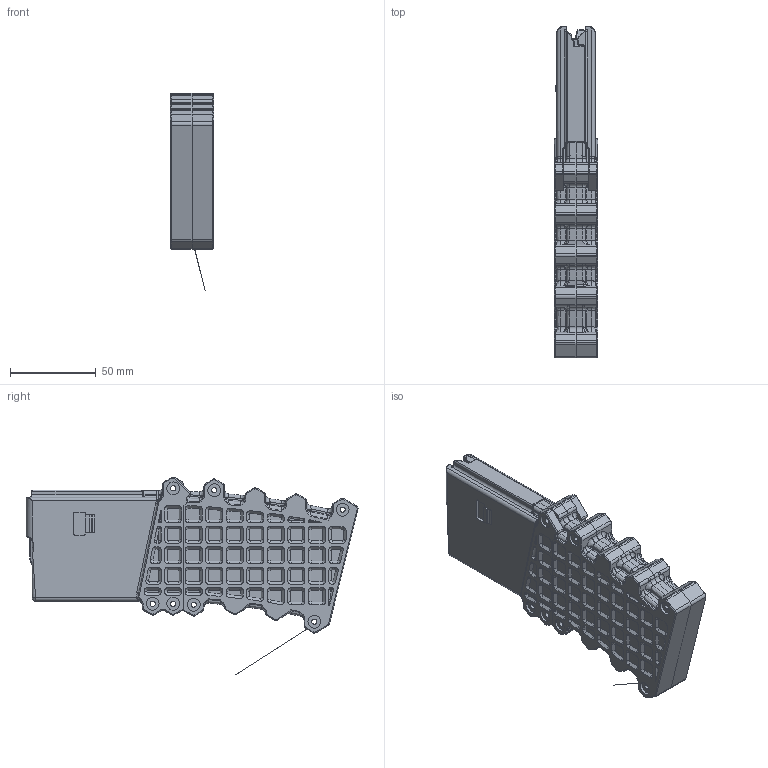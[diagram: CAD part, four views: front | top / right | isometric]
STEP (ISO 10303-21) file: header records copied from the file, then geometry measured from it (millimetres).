
FILE_DESCRIPTION (( 'STEP AP214' ), '1' );
FILE_NAME ('Waffle Magazine.STEP', '2021-05-01T22:58:08', ( '' ), ( '' ), 'SwSTEP 2.0', 'SolidWorks 2020', '' );
FILE_SCHEMA (( 'AUTOMOTIVE_DESIGN' ));
Length unit declared in the file: millimetre
Products named in the file (5): Mag Body Bottom Right; Mag Body Bottom Left; Mag Follower; Waffle Magazine; Mag Body Top
Assembly tree (4 placements, depth 2):
  Waffle Magazine
    Mag Body Top
    Mag Body Bottom Left
    Mag Body Bottom Right
    Mag Follower
Bounding box: 25.5 x 194 x 115.61 mm (x, y, z)
Volume: 117879.3 mm3; surface area: 82430.9 mm2
Topology: 4 solids, 5 shells, 3095 faces, 7949 edges, 4872 vertices
Faces by surface type: plane 973, cylinder 803, bspline 639, cone 478, torus 172, sphere 30
Entity records: 117517 total; most frequent: CARTESIAN_POINT 47237, ORIENTED_EDGE 15650, DIRECTION 13498, EDGE_CURVE 7825, AXIS2_PLACEMENT_3D 4966, VERTEX_POINT 4864, VECTOR 3566, LINE 3566
